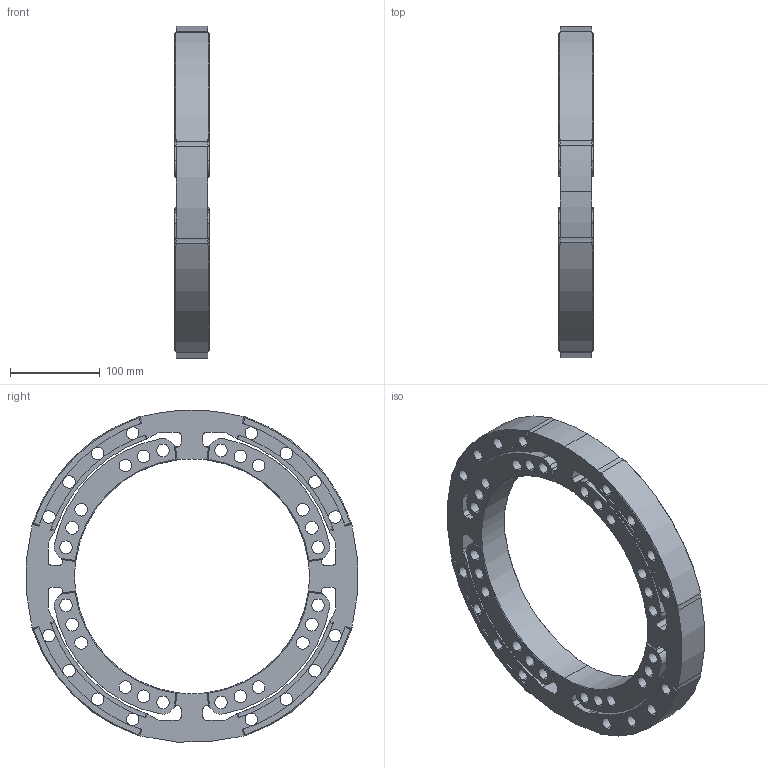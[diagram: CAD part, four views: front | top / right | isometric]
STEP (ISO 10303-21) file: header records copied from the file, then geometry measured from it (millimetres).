
FILE_DESCRIPTION (( 'STEP AP214' ), '1' );
FILE_NAME ('1015842.STEP', '2020-06-19T12:23:59', ( '' ), ( '' ), 'SwSTEP 2.0', 'SolidWorks 2019', '' );
FILE_SCHEMA (( 'AUTOMOTIVE_DESIGN' ));
Length unit declared in the file: inch
Products named in the file (1): 1015842
Bounding box: 38.1 x 369.44 x 370.14 mm (x, y, z)
Volume: 1668847.2 mm3; surface area: 305396.5 mm2
Topology: 1 solids, 1 shells, 463 faces, 1509 edges, 1006 vertices
Faces by surface type: cylinder 293, plane 152, cone 18
Entity records: 17704 total; most frequent: CARTESIAN_POINT 3928, ORIENTED_EDGE 3018, DIRECTION 2949, EDGE_CURVE 1509, AXIS2_PLACEMENT_3D 1140, VERTEX_POINT 1006, CIRCLE 676, VECTOR 669
